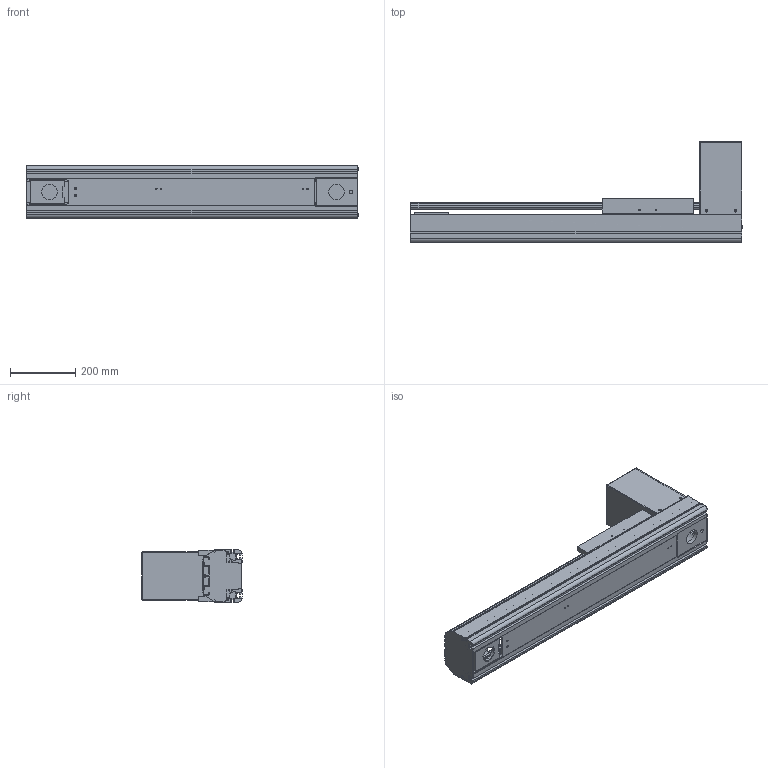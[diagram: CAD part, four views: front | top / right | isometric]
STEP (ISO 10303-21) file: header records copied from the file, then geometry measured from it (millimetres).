
FILE_DESCRIPTION((''),'2;1');
FILE_NAME('BE50G-BT-L19N-45_IGS_PRT','2017-06-18T',(' '),(''),'PRO/ENGINEER BY PARAMETRIC TECHNOLOGY CORPORATION, 2015030','PRO/ENGINEER BY PARAMETRIC TECHNOLOGY CORPORATION, 2015030','');
FILE_SCHEMA(('CONFIG_CONTROL_DESIGN'));
Length unit declared in the file: millimetre
Products named in the file (1): BE50G-BT-L19N-45_IGS_PRT
Bounding box: 1020 x 309 x 160 mm (x, y, z)
Volume: 5810658.5 mm3; surface area: 2141762.5 mm2
Topology: 2 solids, 127 shells, 1798 faces, 4929 edges, 3240 vertices
Faces by surface type: cylinder 867, plane 772, cone 116, sphere 23, torus 20
Entity records: 59047 total; most frequent: CARTESIAN_POINT 12633, DIRECTION 9855, ORIENTED_EDGE 9262, EDGE_CURVE 4853, AXIS2_PLACEMENT_3D 3649, VERTEX_POINT 3239, VECTOR 2557, LINE 2557
